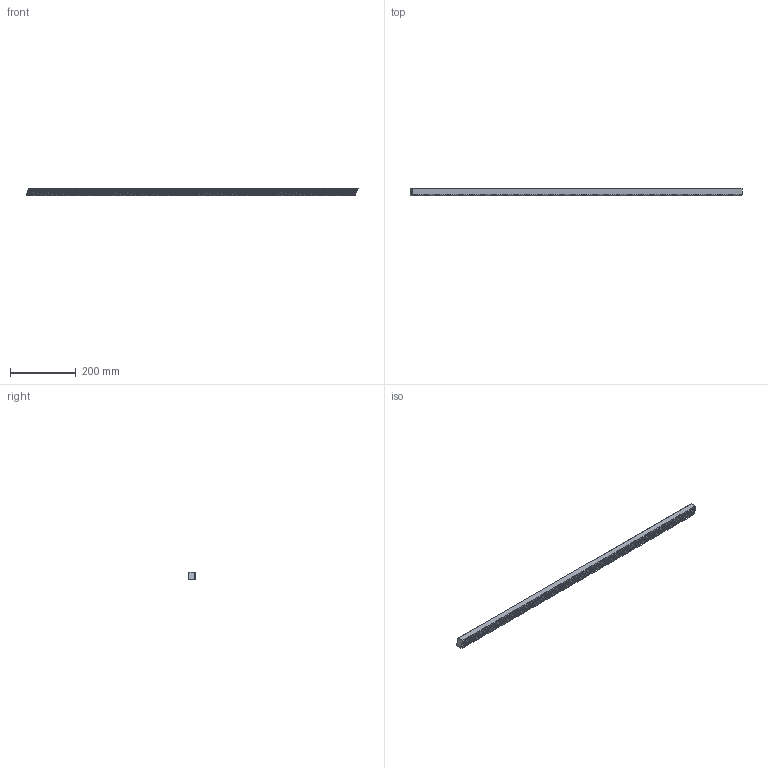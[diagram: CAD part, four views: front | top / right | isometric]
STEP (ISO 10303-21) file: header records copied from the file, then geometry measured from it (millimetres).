
FILE_DESCRIPTION(/* description */ (''),/* implementation_level */ '2;1');
FILE_NAME(/* name */ 'BL-1HR26R020100.ipt',/* time_stamp */ '2019-06-18T08:36:18+02:00',/* author */ ('VĂ©gh MĂˇtĂ©'),/* organization */ ('Bearing Kft'),/* preprocessor_version */ 'ST-DEVELOPER v16.7',/* originating_system */ 'DEX',/* authorisation */ $);
FILE_SCHEMA (('AUTOMOTIVE_DESIGN {1 0 10303 214 3 1 1}'));
Length unit declared in the file: millimetre
Products named in the file (1): BL-1HR26R020100.ipt
Bounding box: 1008.51 x 24 x 24 mm (x, y, z)
Volume: 522573.1 mm3; surface area: 115547.2 mm2
Topology: 1 solids, 1 shells, 1232 faces, 3522 edges, 2348 vertices
Faces by surface type: plane 851, bspline 379, cylinder 2
Entity records: 45732 total; most frequent: CARTESIAN_POINT 14368, ORIENTED_EDGE 7024, DIRECTION 5666, EDGE_CURVE 3512, LINE 2750, VECTOR 2750, VERTEX_POINT 2348, AXIS2_PLACEMENT_3D 1458
